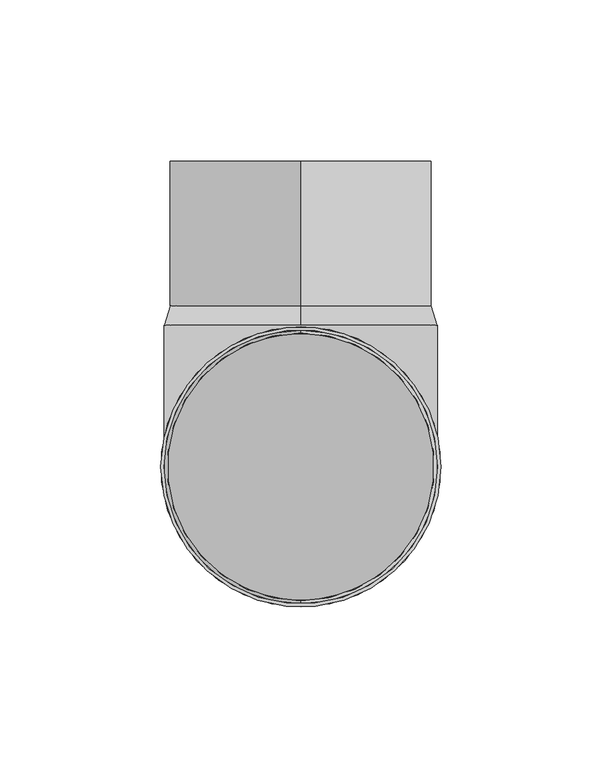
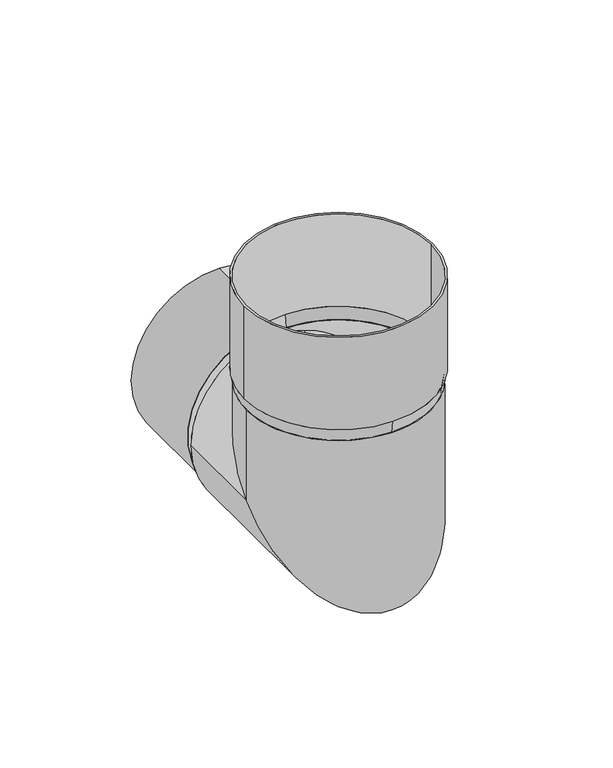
"""IFC4 building model written with IfcOpenShell, lengths in millimetres: proxy geometry, GROVIK_Downpipe_Knee : N85_90°_Down."""

from ifc_helpers import new_model, si_unit, point, frame, frame_2d, origin, origin_with_axes, origin_2d, place, context, project, spatial, polyline, circle_curve, ellipse_curve, trimmed, segment, composite_curve, outline, extrude, source, transform, mapped, element, save
from ifc_brep_helpers import plane_surface, cylinder_surface, revolved_surface, advanced_brep


def generic_models_1b603a2c(model_context):
    return source(origin(), model_context, "Body", "SolidModel", [
        extrude(outline(composite_curve([segment(trimmed(circle_curve(origin_2d(), 43.5), [point((-43.5, 0.0))], [point((43.5, 0.0))], False, "CARTESIAN"), True, "CONTINUOUS"), segment(trimmed(circle_curve(origin_2d(), 43.5), [point((43.5, 0.0))], [point((-43.5, 0.0))], False, "CARTESIAN"), True, "CONTINUOUS")], self_intersect=False), holes=[composite_curve([segment(trimmed(circle_curve(origin_2d(), 42.5), [point((-42.5, 0.0))], [point((42.5, 0.0))], True, "CARTESIAN"), True, "CONTINUOUS"), segment(trimmed(circle_curve(origin_2d(), 42.5), [point((42.5, 0.0))], [point((-42.5, 0.0))], True, "CARTESIAN"), True, "CONTINUOUS")], self_intersect=False)]), frame((0.0, 0.0, 6.0), z_axis=(0.0, 0.0, 1.0), x_axis=(1.0, 0.0, 0.0)), (0.0, 0.0, 1.0), 45.0),
        advanced_brep(
        [(-42.5, 0.0, 0.0), (42.5, 0.0, 0.0), (-41.5, 0.0, 0.0), (41.5, 0.0, 0.0), (-41.5, 0.0, -44.0), (41.5, 0.0, -44.0), (-42.5, 0.0, -44.0), (42.5, 0.0, -44.0), (-42.5, 44.0, -44.0), (42.5, 44.0, -44.0), (-41.5, 44.0, -44.0), (41.5, 44.0, -44.0)],
        [
            (0, 1, circle_curve(origin_with_axes(), 42.5)),
            (1, 0, circle_curve(origin_with_axes(), 42.5)),
            (2, 3, circle_curve(frame((0.0, 0.0, 0.0), z_axis=(0.0, 0.0, -1.0), x_axis=(1.0, 0.0, 0.0)), 41.5)),
            (3, 2, circle_curve(frame((0.0, 0.0, 0.0), z_axis=(0.0, 0.0, -1.0), x_axis=(1.0, 0.0, 0.0)), 41.5)),
            (2, 4),
            (4, 5, ellipse_curve(frame((0.0, 0.0, -44.0), z_axis=(0.0, 0.7071067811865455, -0.7071067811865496), x_axis=(0.0, -0.7071067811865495, -0.7071067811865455)), 58.6898628, 41.5)),
            (5, 3),
            (5, 4, ellipse_curve(frame((0.0, 0.0, -44.0), z_axis=(0.0, 0.7071067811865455, -0.7071067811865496), x_axis=(0.0, -0.7071067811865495, -0.7071067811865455)), 58.6898628, 41.5)),
            (0, 6),
            (6, 7, ellipse_curve(frame((0.0, 0.0, -44.0), z_axis=(0.0, -0.7071067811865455, 0.7071067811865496), x_axis=(0.0, 0.7071067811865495, 0.7071067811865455)), 60.1040764, 42.5)),
            (7, 1),
            (7, 6, ellipse_curve(frame((0.0, 0.0, -44.0), z_axis=(0.0, -0.7071067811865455, 0.7071067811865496), x_axis=(0.0, 0.7071067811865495, 0.7071067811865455)), 60.1040764, 42.5)),
            (8, 9, circle_curve(frame((0.0, 44.0, -44.0), z_axis=(0.0, 1.0, 0.0), x_axis=(1.0, 0.0, 0.0)), 42.5)),
            (9, 8, circle_curve(frame((0.0, 44.0, -44.0), z_axis=(0.0, 1.0, 0.0), x_axis=(1.0, 0.0, 0.0)), 42.5)),
            (10, 11, circle_curve(frame((0.0, 44.0, -44.0), z_axis=(0.0, -1.0, 0.0), x_axis=(1.0, 0.0, 0.0)), 41.5)),
            (11, 10, circle_curve(frame((0.0, 44.0, -44.0), z_axis=(0.0, -1.0, 0.0), x_axis=(1.0, 0.0, 0.0)), 41.5)),
            (4, 10),
            (11, 5),
            (6, 8),
            (9, 7),
        ],
        [
            plane_surface(origin_with_axes()),
            revolved_surface(polyline([(41.5, 0.0, -85.49999997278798), (41.5, 0.0, 0.0)]), (0.0, 0.0, 0.0), (0.0, 0.0, -1.0)),
            cylinder_surface(origin_with_axes(), 42.5),
            plane_surface(frame((0.0, 44.0, -44.0), z_axis=(0.0, 1.0, 0.0), x_axis=(1.0, 0.0, 0.0))),
            revolved_surface(polyline([(41.5, 44.0, -44.0), (41.5, -41.49999997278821, -44.0)]), (0.0, 0.0, -44.0), (0.0, 1.0, 0.0)),
            cylinder_surface(frame((0.0, 0.0, -44.0), z_axis=(0.0, -1.0, 0.0), x_axis=(1.0, 0.0, 0.0)), 42.5),
        ],
        [
            (0, [[1, 2], [3, 4]]),
            (1, [[-3, 5, 6, 7]]),
            (1, [[-4, -7, 8, -5]]),
            (2, [[-1, 9, 10, 11]]),
            (2, [[-2, -11, 12, -9]]),
            (3, [[13, 14], [15, 16]]),
            (4, [[-6, 17, -16, 18]]),
            (4, [[-8, -18, -15, -17]]),
            (5, [[-10, 19, -14, 20]]),
            (5, [[-12, -20, -13, -19]]),
        ],
    ),
        extrude(outline(composite_curve([segment(trimmed(circle_curve(frame_2d((-44.0, 0.0)), 40.7), [point((-3.3, 0.0))], [point((-84.7, 0.0))], False, "CARTESIAN"), True, "CONTINUOUS"), segment(trimmed(circle_curve(frame_2d((-44.0, 0.0)), 40.7), [point((-84.7, 0.0))], [point((-3.3, 0.0))], False, "CARTESIAN"), True, "CONTINUOUS")], self_intersect=False), holes=[composite_curve([segment(trimmed(circle_curve(frame_2d((-44.0, 0.0)), 39.7), [point((-4.3, 0.0))], [point((-83.7, 0.0))], True, "CARTESIAN"), True, "CONTINUOUS"), segment(trimmed(circle_curve(frame_2d((-44.0, 0.0)), 39.7), [point((-83.7, 0.0))], [point((-4.3, 0.0))], True, "CARTESIAN"), True, "CONTINUOUS")], self_intersect=False)]), frame((0.0, 50.0, 0.0), z_axis=(0.0, 1.0, 0.0), x_axis=(0.0, 0.0, 1.0)), (0.0, 0.0, 1.0), 45.0),
        advanced_brep(
        [(0.0, 43.5, 6.0), (0.0, -43.5, 6.0), (0.0, 42.5, 6.0), (0.0, -42.5, 6.0), (0.0, 42.5, 0.0), (0.0, -42.5, 0.0), (0.0, -41.5, 0.0), (0.0, 41.5, 0.0)],
        [
            (0, 1, circle_curve(frame((0.0, 0.0, 6.0), z_axis=(0.0, 0.0, 1.0), x_axis=(0.0, 1.0, 0.0)), 43.5)),
            (1, 0, circle_curve(frame((0.0, 0.0, 6.0), z_axis=(0.0, 0.0, 1.0), x_axis=(0.0, -1.0, 0.0)), 43.5)),
            (2, 3, circle_curve(frame((0.0, 0.0, 6.0), z_axis=(0.0, 0.0, -1.0), x_axis=(0.0, -1.0, 0.0)), 42.5)),
            (3, 2, circle_curve(frame((0.0, 0.0, 6.0), z_axis=(0.0, 0.0, -1.0), x_axis=(0.0, 1.0, 0.0)), 42.5)),
            (4, 5, circle_curve(frame((0.0, 0.0, 0.0), z_axis=(0.0, 0.0, -1.0), x_axis=(0.0, -1.0, 0.0)), 42.5)),
            (5, 4, circle_curve(frame((0.0, 0.0, 0.0), z_axis=(0.0, 0.0, -1.0), x_axis=(0.0, 1.0, 0.0)), 42.5)),
            (6, 7, circle_curve(frame((0.0, 0.0, 0.0), z_axis=(0.0, 0.0, 1.0), x_axis=(0.0, -1.0, 0.0)), 41.5)),
            (7, 6, circle_curve(frame((0.0, 0.0, 0.0), z_axis=(0.0, 0.0, 1.0), x_axis=(0.0, 1.0, 0.0)), 41.5)),
            (1, 5),
            (4, 0),
            (6, 3),
            (2, 7),
        ],
        [
            plane_surface(frame((0.0, 0.0, 6.0), z_axis=(0.0, 0.0, 1.0), x_axis=(-1.0, 0.0, 0.0))),
            plane_surface(frame((0.0, 0.0, 0.0), z_axis=(0.0, 0.0, -1.0), x_axis=(-1.0, 0.0, 0.0))),
            revolved_surface(polyline([(0.0, 42.5, 0.0), (0.0, 43.5, 6.0)]), (0.0, 0.0, -255.0), (0.0, 0.0, 1.0)),
            revolved_surface(polyline([(0.0, -42.5, 0.0), (0.0, -43.5, 6.0)]), (0.0, 0.0, -255.0), (0.0, 0.0, 1.0)),
            revolved_surface(polyline([(0.0, -42.5, 6.0), (0.0, -41.5, 0.0)]), (0.0, 0.0, -249.0), (0.0, 0.0, 1.0)),
        ],
        [
            (0, [[1, 2], [3, 4]]),
            (1, [[5, 6], [7, 8]]),
            (2, [[-2, 9, -5, 10]]),
            (3, [[-1, -10, -6, -9]]),
            (4, [[11, -3, 12, -7]]),
            (4, [[-11, -8, -12, -4]]),
        ],
    ),
        advanced_brep(
        [(0.0, 50.0, -84.7), (0.0, 50.0, -3.3), (0.0, 50.0, -83.7), (0.0, 50.0, -4.3), (0.0, 44.0, -86.5), (0.0, 44.0, -1.5), (0.0, 44.0, -2.5), (0.0, 44.0, -85.5)],
        [
            (0, 1, circle_curve(frame((0.0, 50.0, -44.0), z_axis=(0.0, 1.0, 0.0), x_axis=(0.0, 0.0, -1.0)), 40.7)),
            (1, 0, circle_curve(frame((0.0, 50.0, -44.0), z_axis=(0.0, 1.0, 0.0), x_axis=(0.0, 0.0, 1.0)), 40.7)),
            (2, 3, circle_curve(frame((0.0, 50.0, -44.0), z_axis=(0.0, -1.0, 0.0), x_axis=(0.0, 0.0, 1.0)), 39.7)),
            (3, 2, circle_curve(frame((0.0, 50.0, -44.0), z_axis=(0.0, -1.0, 0.0), x_axis=(0.0, 0.0, -1.0)), 39.7)),
            (4, 5, circle_curve(frame((0.0, 44.0, -44.0), z_axis=(0.0, -1.0, 0.0), x_axis=(0.0, 0.0, 1.0)), 42.5)),
            (5, 4, circle_curve(frame((0.0, 44.0, -44.0), z_axis=(0.0, -1.0, 0.0), x_axis=(0.0, 0.0, -1.0)), 42.5)),
            (6, 7, circle_curve(frame((0.0, 44.0, -44.0), z_axis=(0.0, 1.0, 0.0), x_axis=(0.0, 0.0, 1.0)), 41.5)),
            (7, 6, circle_curve(frame((0.0, 44.0, -44.0), z_axis=(0.0, 1.0, 0.0), x_axis=(0.0, 0.0, -1.0)), 41.5)),
            (1, 5),
            (4, 0),
            (6, 3),
            (2, 7),
        ],
        [
            plane_surface(frame((0.0, 50.0, -44.0), z_axis=(0.0, 1.0, 0.0), x_axis=(-1.0, 0.0, 0.0))),
            plane_surface(frame((0.0, 44.0, -44.0), z_axis=(0.0, -1.0, 0.0), x_axis=(-1.0, 0.0, 0.0))),
            revolved_surface(polyline([(0.0, 50.0, -3.299999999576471), (0.0, 44.0, -1.5)]), (0.0, 185.6666667, -44.0), (0.0, -1.0, 0.0)),
            revolved_surface(polyline([(0.0, 50.0, -84.70000000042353), (0.0, 44.0, -86.5)]), (0.0, 185.6666667, -44.0), (0.0, -1.0, 0.0)),
            revolved_surface(polyline([(0.0, 44.0, -2.5), (0.0, 50.0, -4.300000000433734)]), (0.0, 182.3333333, -44.0), (0.0, -1.0, 0.0)),
        ],
        [
            (0, [[1, 2], [3, 4]]),
            (1, [[5, 6], [7, 8]]),
            (2, [[-2, 9, -5, 10]]),
            (3, [[-1, -10, -6, -9]]),
            (4, [[11, -3, 12, -7]]),
            (4, [[-11, -8, -12, -4]]),
        ],
    ),
    ])


if __name__ == "__main__":
    model = new_model("IFC4")
    model_context = context("Model", 3, world=origin())
    ifc_project = project(units=[si_unit("LENGTHUNIT", "METRE", prefix="MILLI")], contexts=[model_context])
    site = spatial("IfcSite", under=ifc_project)
    building = spatial("IfcBuilding", under=site)
    placement = place(None, origin())
    generic_models_shape = generic_models_1b603a2c(model_context)
    element("IfcBuildingElementProxy", 1, Name="GROVIK_Downpipe_Knee : N85_90°_Down", ObjectType="GROVIK_Downpipe_Knee : N85_90°_Down", at=placement, inside=building, context=model_context, shape_type="MappedRepresentation", body=[
        mapped(generic_models_shape, transform((0.0, 0.0, 0.0), x_axis=(1.0, 0.0, 0.0), y_axis=(0.0, 1.0, 0.0), z_axis=(0.0, 0.0, 1.0))),
    ])
    save(model, "model.ifc")
